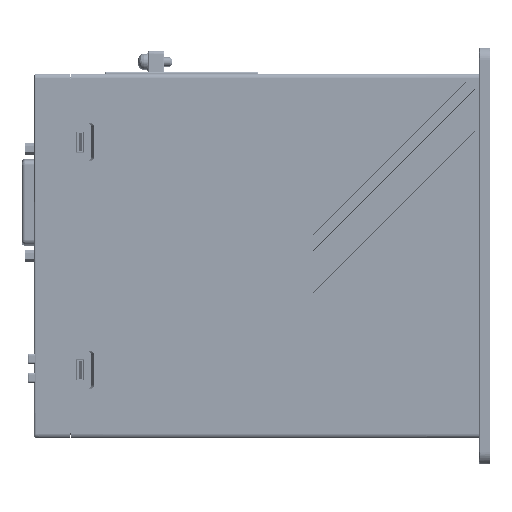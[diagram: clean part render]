
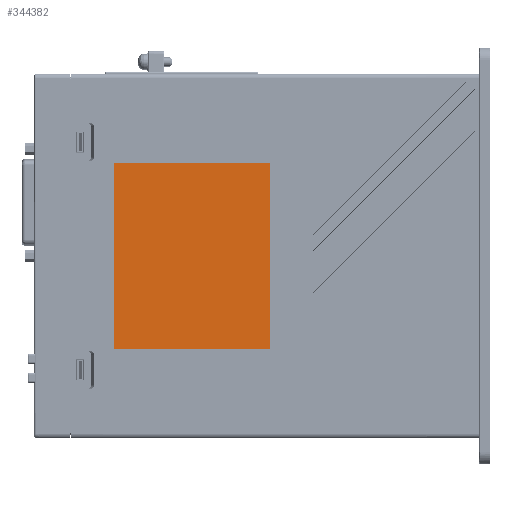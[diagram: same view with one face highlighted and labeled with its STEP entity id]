
A CAD part, left-side view. The second image highlights one B-rep face of the part: STEP entity #344382.
In plain terms, the highlighted planar face has unit normal (-1, 0, 0).
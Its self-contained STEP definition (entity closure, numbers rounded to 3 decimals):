
#331957=CARTESIAN_POINT('',(67.38,221.859,
-132.001));
#331958=DIRECTION('',(1.,0.,0.));
#331959=DIRECTION('',(0.,0.,-1.));
#331960=AXIS2_PLACEMENT_3D('',#331957,#331958,#331959);
#331962=DIRECTION('',(0.,0.,1.));
#331963=VECTOR('',#331962,81.);
#331964=CARTESIAN_POINT('',(67.38,222.359,
-132.001));
#331965=LINE('',#331964,#331963);
#331966=CARTESIAN_POINT('',(67.38,221.859,
-51.001));
#331967=DIRECTION('',(1.,0.,0.));
#331968=DIRECTION('',(0.,1.,0.));
#331969=AXIS2_PLACEMENT_3D('',#331966,#331967,#331968);
#331971=DIRECTION('',(0.,-1.,0.));
#331972=VECTOR('',#331971,67.5);
#331973=CARTESIAN_POINT('',(67.38,221.859,
-50.501));
#331974=LINE('',#331973,#331972);
#331975=CARTESIAN_POINT('',(67.38,154.359,
-51.001));
#331976=DIRECTION('',(1.,0.,0.));
#331977=DIRECTION('',(0.,0.,1.));
#331978=AXIS2_PLACEMENT_3D('',#331975,#331976,#331977);
#331980=DIRECTION('',(0.,0.,-1.));
#331981=VECTOR('',#331980,81.);
#331982=CARTESIAN_POINT('',(67.38,153.859,
-51.001));
#331983=LINE('',#331982,#331981);
#331984=CARTESIAN_POINT('',(67.38,154.359,
-132.001));
#331985=DIRECTION('',(1.,0.,0.));
#331986=DIRECTION('',(0.,-1.,0.));
#331987=AXIS2_PLACEMENT_3D('',#331984,#331985,#331986);
#331989=DIRECTION('',(0.,1.,0.));
#331990=VECTOR('',#331989,67.5);
#331991=CARTESIAN_POINT('',(67.38,154.359,
-132.501));
#331992=LINE('',#331991,#331990);
#341272=CARTESIAN_POINT('',(67.38,222.359,
-132.001));
#341273=CARTESIAN_POINT('',(67.38,221.859,
-132.501));
#341274=VERTEX_POINT('',#341272);
#341275=VERTEX_POINT('',#341273);
#341276=CARTESIAN_POINT('',(67.38,221.859,
-50.501));
#341277=CARTESIAN_POINT('',(67.38,222.359,
-51.001));
#341278=VERTEX_POINT('',#341276);
#341279=VERTEX_POINT('',#341277);
#341280=CARTESIAN_POINT('',(67.38,153.859,
-51.001));
#341281=CARTESIAN_POINT('',(67.38,154.359,
-50.501));
#341282=VERTEX_POINT('',#341280);
#341283=VERTEX_POINT('',#341281);
#341284=CARTESIAN_POINT('',(67.38,154.359,
-132.501));
#341285=CARTESIAN_POINT('',(67.38,153.859,
-132.001));
#341286=VERTEX_POINT('',#341284);
#341287=VERTEX_POINT('',#341285);
#344359=CARTESIAN_POINT('',(67.38,62.359,
-91.501));
#344360=DIRECTION('',(-1.,0.,0.));
#344361=DIRECTION('',(0.,0.,1.));
#344362=AXIS2_PLACEMENT_3D('',#344359,#344360,#344361);
#344363=PLANE('',#344362);
#344365=ORIENTED_EDGE('',*,*,#344364,.T.);
#344367=ORIENTED_EDGE('',*,*,#344366,.T.);
#344369=ORIENTED_EDGE('',*,*,#344368,.T.);
#344371=ORIENTED_EDGE('',*,*,#344370,.T.);
#344373=ORIENTED_EDGE('',*,*,#344372,.T.);
#344375=ORIENTED_EDGE('',*,*,#344374,.T.);
#344377=ORIENTED_EDGE('',*,*,#344376,.T.);
#344379=ORIENTED_EDGE('',*,*,#344378,.T.);
#344380=EDGE_LOOP('',(#344365,#344367,#344369,#344371,#344373,#344375,#344377,
#344379));
#344381=FACE_OUTER_BOUND('',#344380,.F.);
#331961=CIRCLE('',#331960,0.5);
#331970=CIRCLE('',#331969,0.5);
#331979=CIRCLE('',#331978,0.5);
#331988=CIRCLE('',#331987,0.5);
#344364=EDGE_CURVE('',#341275,#341274,#331961,.T.);
#344366=EDGE_CURVE('',#341274,#341279,#331965,.T.);
#344368=EDGE_CURVE('',#341279,#341278,#331970,.T.);
#344370=EDGE_CURVE('',#341278,#341283,#331974,.T.);
#344372=EDGE_CURVE('',#341283,#341282,#331979,.T.);
#344374=EDGE_CURVE('',#341282,#341287,#331983,.T.);
#344376=EDGE_CURVE('',#341287,#341286,#331988,.T.);
#344378=EDGE_CURVE('',#341286,#341275,#331992,.T.);
#344382=ADVANCED_FACE('',(#344381),#344363,.T.);
